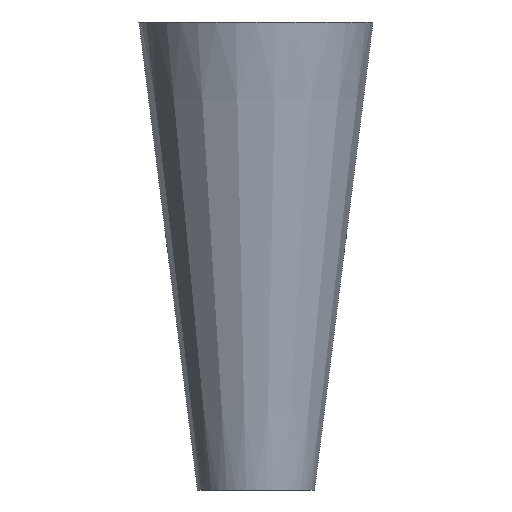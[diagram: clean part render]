
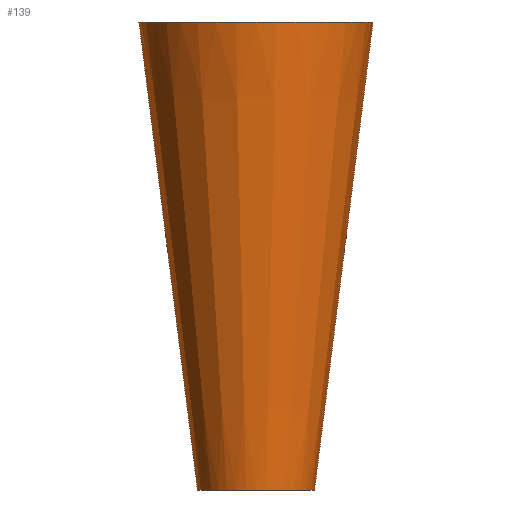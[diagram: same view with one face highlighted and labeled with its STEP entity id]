
A CAD part, front view. The second image highlights one B-rep face of the part: STEP entity #139.
In plain terms, the highlighted conical face has half-angle 7.125 degrees and reference radius 9.525 mm.
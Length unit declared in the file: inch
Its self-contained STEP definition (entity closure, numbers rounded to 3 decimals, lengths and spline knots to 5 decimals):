
#5 = VERTEX_POINT ( 'NONE', #222 ) ;
#6 = CARTESIAN_POINT ( 'NONE',  ( 0.75, 0., 0. ) ) ;
#15 = DIRECTION ( 'NONE',  ( 1., 0., 0. ) ) ;
#23 = CONICAL_SURFACE ( 'NONE', #144, 0.375, 0.124 ) ;
#24 = ORIENTED_EDGE ( 'NONE', *, *, #116, .T. ) ;
#28 = CARTESIAN_POINT ( 'NONE',  ( 0., 0., -3. ) ) ;
#30 = LINE ( 'NONE', #87, #220 ) ;
#31 = DIRECTION ( 'NONE',  ( 0., 0., 1. ) ) ;
#33 = CARTESIAN_POINT ( 'NONE',  ( 0.375, 0., -3. ) ) ;
#36 = AXIS2_PLACEMENT_3D ( 'NONE', #48, #31, #15 ) ;
#37 = VERTEX_POINT ( 'NONE', #33 ) ;
#38 = DIRECTION ( 'NONE',  ( 1., 0., 0. ) ) ;
#43 = LINE ( 'NONE', #105, #155 ) ;
#48 = CARTESIAN_POINT ( 'NONE',  ( 0., 0., 0. ) ) ;
#55 = DIRECTION ( 'NONE',  ( 0., 0., 1. ) ) ;
#87 = CARTESIAN_POINT ( 'NONE',  ( -0.375, 0., -3. ) ) ;
#88 = CIRCLE ( 'NONE', #211, 0.375 ) ;
#95 = ORIENTED_EDGE ( 'NONE', *, *, #214, .T. ) ;
#105 = CARTESIAN_POINT ( 'NONE',  ( 0.375, 0., -3. ) ) ;
#106 = ORIENTED_EDGE ( 'NONE', *, *, #202, .F. ) ;
#116 = EDGE_CURVE ( 'NONE', #37, #125, #43, .T. ) ;
#119 = VERTEX_POINT ( 'NONE', #136 ) ;
#125 = VERTEX_POINT ( 'NONE', #6 ) ;
#136 = CARTESIAN_POINT ( 'NONE',  ( -0.375, 0., -3. ) ) ;
#139 = ADVANCED_FACE ( 'NONE', ( #184 ), #23, .T. ) ;
#144 = AXIS2_PLACEMENT_3D ( 'NONE', #28, #55, #38 ) ;
#154 = DIRECTION ( 'NONE',  ( 0., 0., 1. ) ) ;
#155 = VECTOR ( 'NONE', #182, 39.37008 ) ;
#156 = CIRCLE ( 'NONE', #36, 0.75 ) ;
#162 = EDGE_LOOP ( 'NONE', ( #106, #95, #24, #185 ) ) ;
#168 = DIRECTION ( 'NONE',  ( -0.124, 0., 0.992 ) ) ;
#182 = DIRECTION ( 'NONE',  ( 0.124, 0., 0.992 ) ) ;
#184 = FACE_OUTER_BOUND ( 'NONE', #162, .T. ) ;
#185 = ORIENTED_EDGE ( 'NONE', *, *, #195, .F. ) ;
#195 = EDGE_CURVE ( 'NONE', #5, #125, #156, .T. ) ;
#202 = EDGE_CURVE ( 'NONE', #119, #5, #30, .T. ) ;
#209 = DIRECTION ( 'NONE',  ( 1., 0., 0. ) ) ;
#211 = AXIS2_PLACEMENT_3D ( 'NONE', #216, #154, #209 ) ;
#214 = EDGE_CURVE ( 'NONE', #119, #37, #88, .T. ) ;
#216 = CARTESIAN_POINT ( 'NONE',  ( 0., 0., -3. ) ) ;
#220 = VECTOR ( 'NONE', #168, 39.37008 ) ;
#222 = CARTESIAN_POINT ( 'NONE',  ( -0.75, 0., 0. ) ) ;
